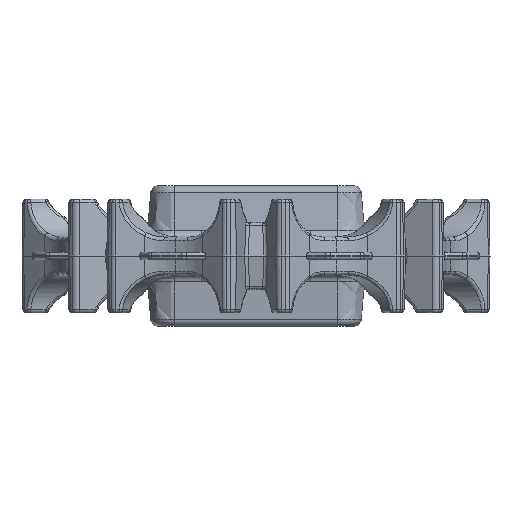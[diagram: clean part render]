
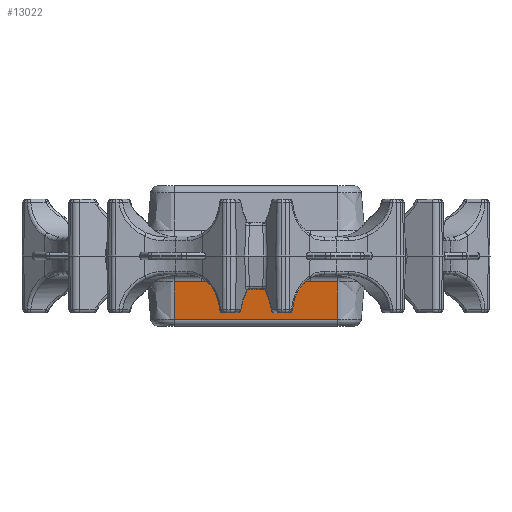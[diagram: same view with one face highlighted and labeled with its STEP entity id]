
A CAD part, left-side view. The second image highlights one B-rep face of the part: STEP entity #13022.
In plain terms, the highlighted planar face has unit normal (-0.996, 0, -0.087).
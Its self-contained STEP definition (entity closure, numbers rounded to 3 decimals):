
#9544=PLANE('',#33450);
#10484=LINE('',#42969,#11523);
#10485=LINE('',#43012,#11524);
#10486=LINE('',#43015,#11525);
#10487=LINE('',#43025,#11526);
#10488=LINE('',#43035,#11527);
#10489=LINE('',#43036,#11528);
#11523=VECTOR('',#36259,1.);
#11524=VECTOR('',#36260,1.);
#11525=VECTOR('',#36261,1.);
#11526=VECTOR('',#36262,1.);
#11527=VECTOR('',#36263,1.);
#11528=VECTOR('',#36264,1.);
#13022=ADVANCED_FACE('',(#14549),#9544,.F.);
#14549=FACE_OUTER_BOUND('',#16040,.T.);
#16040=EDGE_LOOP('',(#18996,#18997,#18998,#18999,#19000,#19001,#19002,#19003));
#18996=ORIENTED_EDGE('',*,*,#27774,.F.);
#18997=ORIENTED_EDGE('',*,*,#27775,.F.);
#18998=ORIENTED_EDGE('',*,*,#27776,.F.);
#18999=ORIENTED_EDGE('',*,*,#27777,.F.);
#19000=ORIENTED_EDGE('',*,*,#27778,.F.);
#19001=ORIENTED_EDGE('',*,*,#27779,.F.);
#19002=ORIENTED_EDGE('',*,*,#27771,.T.);
#19003=ORIENTED_EDGE('',*,*,#27780,.F.);
#25788=VERTEX_POINT('',#42970);
#25789=VERTEX_POINT('',#42971);
#25790=VERTEX_POINT('',#43013);
#25791=VERTEX_POINT('',#43014);
#25792=VERTEX_POINT('',#43016);
#25793=VERTEX_POINT('',#43024);
#25794=VERTEX_POINT('',#43026);
#25795=VERTEX_POINT('',#43034);
#27771=EDGE_CURVE('',#25788,#25789,#10484,.T.);
#27774=EDGE_CURVE('',#25790,#25791,#10485,.T.);
#27775=EDGE_CURVE('',#25792,#25790,#10486,.T.);
#27776=EDGE_CURVE('',#25793,#25792,#31059,.T.);
#27777=EDGE_CURVE('',#25794,#25793,#10487,.T.);
#27778=EDGE_CURVE('',#25795,#25794,#31060,.T.);
#27779=EDGE_CURVE('',#25788,#25795,#10488,.T.);
#27780=EDGE_CURVE('',#25791,#25789,#10489,.T.);
#31059=B_SPLINE_CURVE_WITH_KNOTS('',3,(#43017,#43018,#43019,#43020,#43021,
#43022,#43023),.UNSPECIFIED.,.F.,.F.,(4,3,4),(0.,0.63,1.),
 .UNSPECIFIED.);
#31060=B_SPLINE_CURVE_WITH_KNOTS('',3,(#43027,#43028,#43029,#43030,#43031,
#43032,#43033),.UNSPECIFIED.,.F.,.F.,(4,3,4),(0.,0.37,1.),
 .UNSPECIFIED.);
#33450=AXIS2_PLACEMENT_3D('',#43037,#36265,#36266);
#36259=DIRECTION('',(0.087,0.,-0.996));
#36260=DIRECTION('',(0.087,0.,-0.996));
#36261=DIRECTION('',(0.,-1.,0.));
#36262=DIRECTION('',(0.,-1.,0.));
#36263=DIRECTION('',(0.,-1.,0.));
#36264=DIRECTION('',(0.,1.,0.));
#36265=DIRECTION('',(0.996,0.,0.087));
#36266=DIRECTION('',(-0.087,0.,0.996));
#42969=CARTESIAN_POINT('',(2964.244,1284.149,-18.674));
#42970=CARTESIAN_POINT('',(2963.208,1284.149,-6.826));
#42971=CARTESIAN_POINT('',(2964.069,1284.149,-16.674));
#43012=CARTESIAN_POINT('',(2964.244,1241.009,-18.674));
#43013=CARTESIAN_POINT('',(2963.208,1241.009,-6.826));
#43014=CARTESIAN_POINT('',(2964.069,1241.009,-16.674));
#43015=CARTESIAN_POINT('',(2963.208,1241.009,-6.826));
#43016=CARTESIAN_POINT('',(2963.208,1248.183,-6.826));
#43017=CARTESIAN_POINT('',(2963.178,1252.236,-6.489));
#43018=CARTESIAN_POINT('',(2963.178,1251.381,-6.489));
#43019=CARTESIAN_POINT('',(2963.19,1250.532,-6.623));
#43020=CARTESIAN_POINT('',(2963.199,1249.683,-6.723));
#43021=CARTESIAN_POINT('',(2963.204,1249.185,-6.782));
#43022=CARTESIAN_POINT('',(2963.208,1248.684,-6.826));
#43023=CARTESIAN_POINT('',(2963.208,1248.183,-6.826));
#43024=CARTESIAN_POINT('',(2963.178,1252.236,-6.489));
#43025=CARTESIAN_POINT('',(2963.178,1241.009,-6.489));
#43026=CARTESIAN_POINT('',(2963.178,1272.922,-6.489));
#43027=CARTESIAN_POINT('',(2963.208,1276.975,-6.826));
#43028=CARTESIAN_POINT('',(2963.208,1276.474,-6.826));
#43029=CARTESIAN_POINT('',(2963.204,1275.973,-6.782));
#43030=CARTESIAN_POINT('',(2963.199,1275.475,-6.723));
#43031=CARTESIAN_POINT('',(2963.19,1274.627,-6.623));
#43032=CARTESIAN_POINT('',(2963.178,1273.777,-6.489));
#43033=CARTESIAN_POINT('',(2963.178,1272.922,-6.489));
#43034=CARTESIAN_POINT('',(2963.208,1276.975,-6.826));
#43035=CARTESIAN_POINT('',(2963.208,1241.009,-6.826));
#43036=CARTESIAN_POINT('',(2964.069,1262.579,-16.674));
#43037=CARTESIAN_POINT('',(2964.244,1262.579,-18.674));
